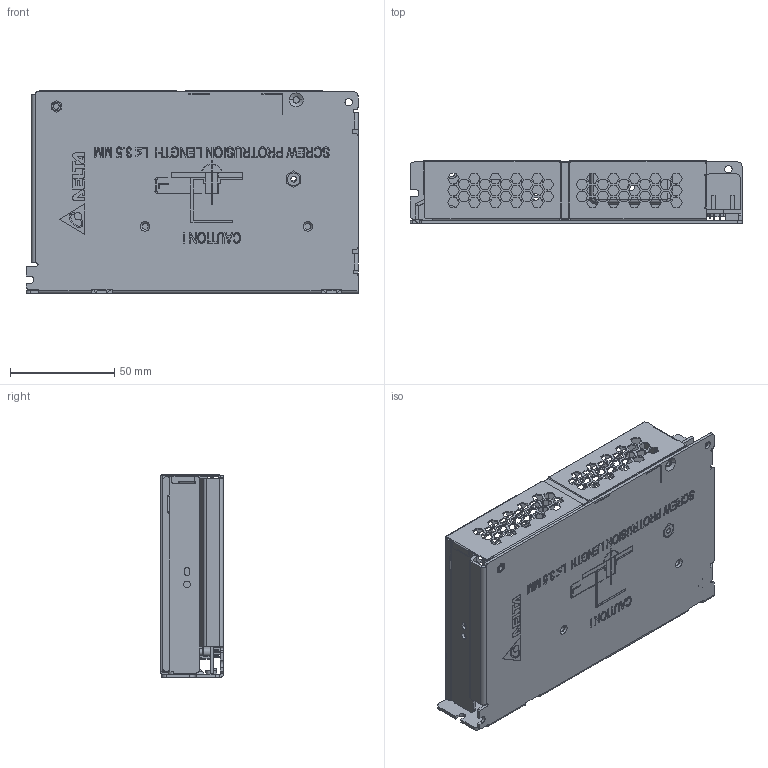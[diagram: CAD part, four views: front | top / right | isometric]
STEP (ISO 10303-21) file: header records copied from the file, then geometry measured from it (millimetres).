
FILE_DESCRIPTION((''),'2;1');
FILE_NAME('PMH-24V150WCLU_ASM','2018-03-13T',('Warud'),(''),'PRO/ENGINEER BY PARAMETRIC TECHNOLOGY CORPORATION, 2010180','PRO/ENGINEER BY PARAMETRIC TECHNOLOGY CORPORATION, 2010180','');
FILE_SCHEMA(('CONFIG_CONTROL_DESIGN','SHAPE_APPEARANCE_LAYERS_GROUPS'));
Products named in the file (13): 330336630102_A_BODY; 330336630102_A_STUD6-32; 330336630102_A_S0-M3-48-ZI; 330336630102_ASM; 330336620000; 3263670900; PWB_MAINBOARD; 307049867W; EE_VR131; EE_LED370; 312330170000_LED-HOLDER; ASSY_PWB-MAINBOARD_ASM; PMH-24V150WCLU_ASM
Assembly tree (12 placements, depth 3):
  PMH-24V150WCLU_ASM
    330336630102_ASM
      330336630102_A_BODY
      330336630102_A_STUD6-32
      330336630102_A_S0-M3-48-ZI
    330336620000
    3263670900
    ASSY_PWB-MAINBOARD_ASM
      PWB_MAINBOARD
      307049867W
      EE_VR131
      EE_LED370
      312330170000_LED-HOLDER
Bounding box: 159 x 30.1 x 97 mm (x, y, z)
Volume: 75906.3 mm3; surface area: 113929.3 mm2
Topology: 10 solids, 10 shells, 5274 faces, 15298 edges, 9868 vertices
Faces by surface type: plane 4255, cylinder 440, extrusion 376, bspline 160, cone 27, torus 16
Entity records: 226259 total; most frequent: CARTESIAN_POINT 37807, ORIENTED_EDGE 30596, DIRECTION 25381, PRESENTATION_STYLE_ASSIGNMENT 15612, STYLED_ITEM 15375, EDGE_CURVE 15298, CURVE_STYLE 15238, VECTOR 13763
